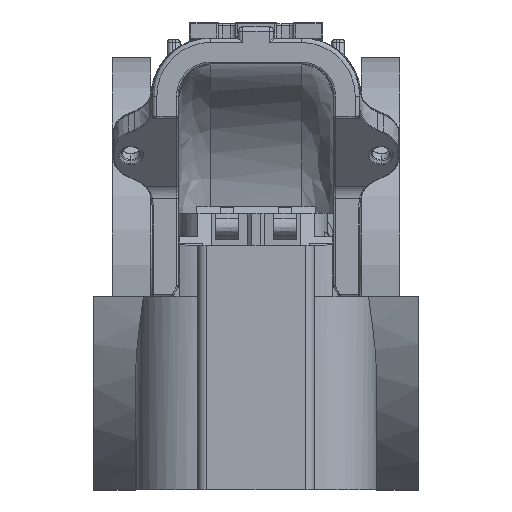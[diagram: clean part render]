
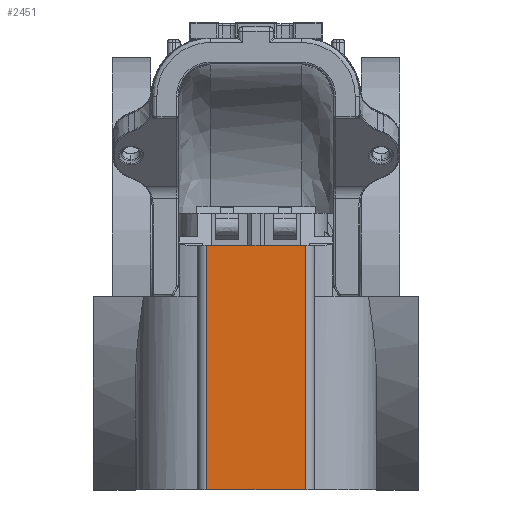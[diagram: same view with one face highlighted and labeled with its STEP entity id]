
A CAD part, front view. The second image highlights one B-rep face of the part: STEP entity #2451.
In plain terms, the highlighted planar face has unit normal (0, -1, 0).
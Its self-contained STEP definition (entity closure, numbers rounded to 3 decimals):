
#1332=CARTESIAN_POINT('NONE',(5.5,-39.3,6.3));
#1333=VERTEX_POINT('NONE',#1332);
#1344=DIRECTION('NONE',(1.,0.,0.));
#1345=VECTOR('NONE',#1344,1.);
#1346=CARTESIAN_POINT('NONE',(0.,-39.3,6.3));
#1347=LINE('*LN120',#1346,#1345);
#1349=EDGE_CURVE('NONE',#2419,#1333,#1347,.T.);
#2416=CARTESIAN_POINT('NONE',(-5.5,-39.3,33.7));
#2417=VERTEX_POINT('NONE',#2416);
#2418=CARTESIAN_POINT('NONE',(-5.5,-39.3,6.3));
#2419=VERTEX_POINT('NONE',#2418);
#2420=DIRECTION('NONE',(0.,0.,-1.));
#2421=VECTOR('NONE',#2420,1.);
#2422=CARTESIAN_POINT('NONE',(-5.5,-39.3,0.));
#2423=LINE('*LN122',#2422,#2421);
#2425=EDGE_CURVE('NONE',#2417,#2419,#2423,.T.);
#2426=ORIENTED_EDGE('NONE',*,*,#2425,.T.);
#2427=ORIENTED_EDGE('NONE',*,*,#1349,.T.);
#2428=CARTESIAN_POINT('NONE',(5.5,-39.3,33.7));
#2429=VERTEX_POINT('NONE',#2428);
#2430=DIRECTION('NONE',(0.,0.,-1.));
#2431=VECTOR('NONE',#2430,1.);
#2432=CARTESIAN_POINT('NONE',(5.5,-39.3,0.));
#2433=LINE('*LN119',#2432,#2431);
#2435=EDGE_CURVE('NONE',#2429,#1333,#2433,.T.);
#2436=ORIENTED_EDGE('NONE',*,*,#2435,.F.);
#2437=DIRECTION('NONE',(-1.,0.,0.));
#2438=VECTOR('NONE',#2437,1.);
#2439=CARTESIAN_POINT('NONE',(0.,-39.3,33.7));
#2440=LINE('*LN121',#2439,#2438);
#2442=EDGE_CURVE('NONE',#2429,#2417,#2440,.T.);
#2443=ORIENTED_EDGE('NONE',*,*,#2442,.T.);
#2444=EDGE_LOOP('NONE',(#2426,#2427,#2436,#2443));
#2445=FACE_OUTER_BOUND('NONE',#2444,.T.);
#2446=CARTESIAN_POINT('NONE',(-5.5,-39.3,28.));
#2447=DIRECTION('NONE',(0.,0.,-1.));
#2448=DIRECTION('NONE',(0.,-1.,0.));
#2449=AXIS2_PLACEMENT_3D('NONE',#2446,#2448,#2447);
#2450=PLANE('NONE',#2449);
#2451=ADVANCED_FACE('*FAC56',(#2445),#2450,.T.);
